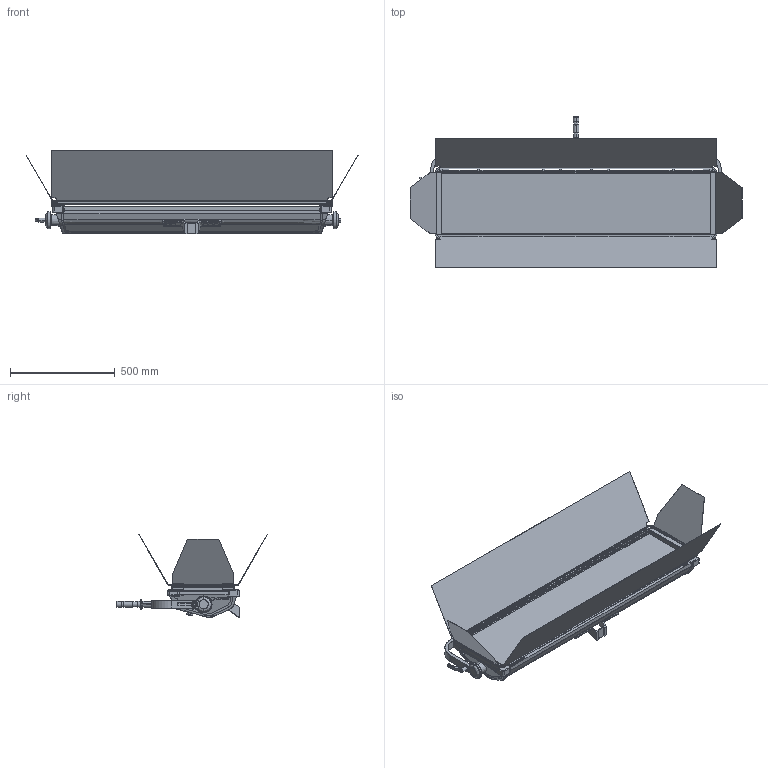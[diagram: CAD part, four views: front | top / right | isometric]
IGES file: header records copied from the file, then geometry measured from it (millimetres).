
Start section: SolidWorks IGES file using analytic representation for surfaces
Global section: file name: L:\32000\4. Serie\S120 reduziert\S120 reduziert_Transfer\S120-C_MAN.IGS; native system: SolidWorks 2016; preprocessor: SolidWorks 2016; author: huttner; date: 160830.155939; units: millimetre
Bounding box: 1587.17 x 722.53 x 399.33 mm (x, y, z)
Surface area: 3644409.5 mm2 (no closed solid volume)
Topology: 0 solids, 0 shells, 2537 faces, 24753 edges, 24747 vertices
Faces by surface type: bspline 1609, revolution 928
